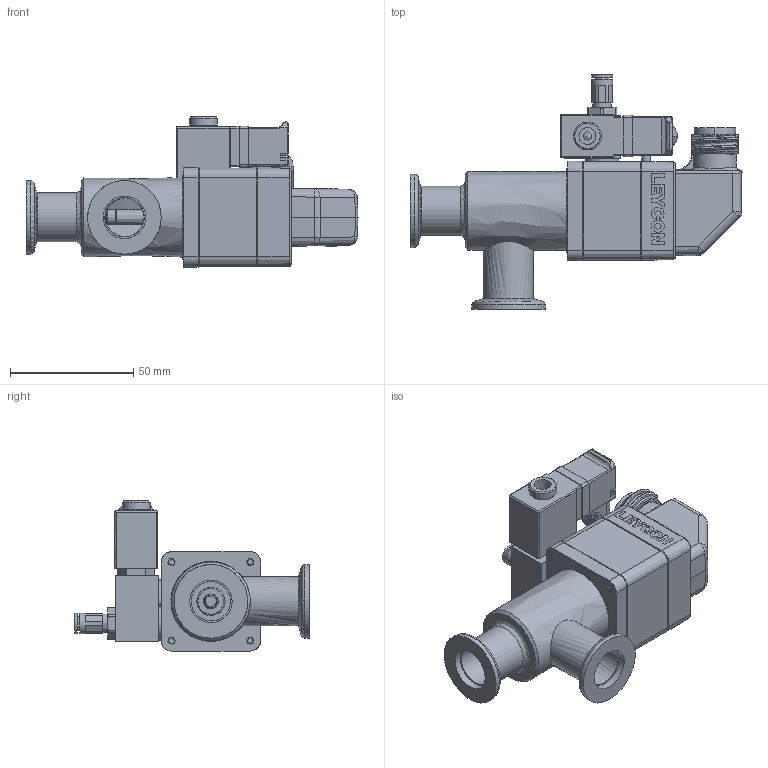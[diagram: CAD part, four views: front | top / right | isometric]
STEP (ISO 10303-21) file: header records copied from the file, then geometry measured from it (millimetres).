
FILE_DESCRIPTION((''),'2;1');
FILE_NAME('C:\TEMP\IDEAS\342294.stp','2007-06-23T10:52:40',('User'),( 'SDRC'),'I-DEAS Master Series 9','UNIX','Yes');
FILE_SCHEMA(('CONFIG_CONTROL_DESIGN'));
Length unit declared in the file: millimetre
Assembly tree (27 placements, depth 0):
Bounding box: 134.9 x 95.35 x 61 mm (x, y, z)
Volume: 60391.9 mm3; surface area: 66572 mm2
Topology: 23 solids, 27 shells, 1571 faces, 3776 edges, 2344 vertices
Faces by surface type: bspline 1571
Entity records: 62669 total; most frequent: CARTESIAN_POINT 39818, ORIENTED_EDGE 6829, EDGE_CURVE 3416, VERTEX_POINT 2128, EDGE_LOOP 1570, FACE_OUTER_BOUND 1404, ADVANCED_FACE 1404, B_SPLINE_CURVE_WITH_KNOTS 1314
